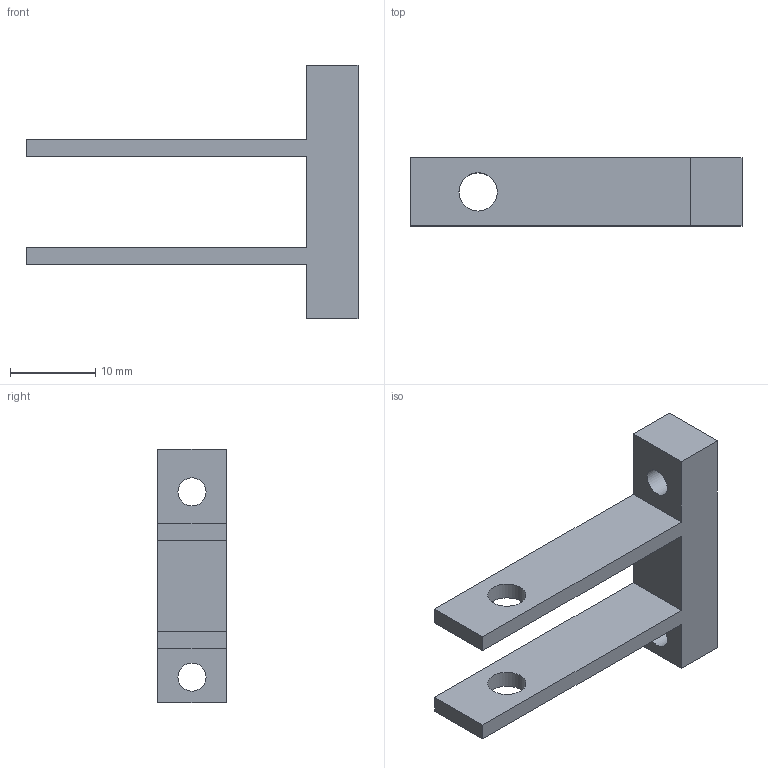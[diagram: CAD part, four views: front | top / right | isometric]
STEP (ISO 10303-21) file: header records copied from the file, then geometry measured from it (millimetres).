
FILE_DESCRIPTION(('FreeCAD Model'),'2;1');
FILE_NAME('Open CASCADE Shape Model','2026-10-30T14:44:40',('FreeCAD'),( 'FreeCAD'),'Open CASCADE STEP processor 7.8','FreeCAD','Unknown');
FILE_SCHEMA(('AUTOMOTIVE_DESIGN { 1 0 10303 214 1 1 1 1 }'));
Length unit declared in the file: millimetre
Products named in the file (1): Open CASCADE STEP translator 7.8 3
Bounding box: 39 x 8 x 29.75 mm (x, y, z)
Volume: 2317.7 mm3; surface area: 2332.1 mm2
Topology: 1 solids, 1 shells, 18 faces, 48 edges, 32 vertices
Faces by surface type: plane 14, cylinder 4
Full cylindrical faces by diameter (mm): 3.3 x2, 4.5 x2
Entity records: 586 total; most frequent: CARTESIAN_POINT 99, ORIENTED_EDGE 96, DIRECTION 94, EDGE_CURVE 48, LINE 40, VECTOR 40, VERTEX_POINT 32, AXIS2_PLACEMENT_3D 27
